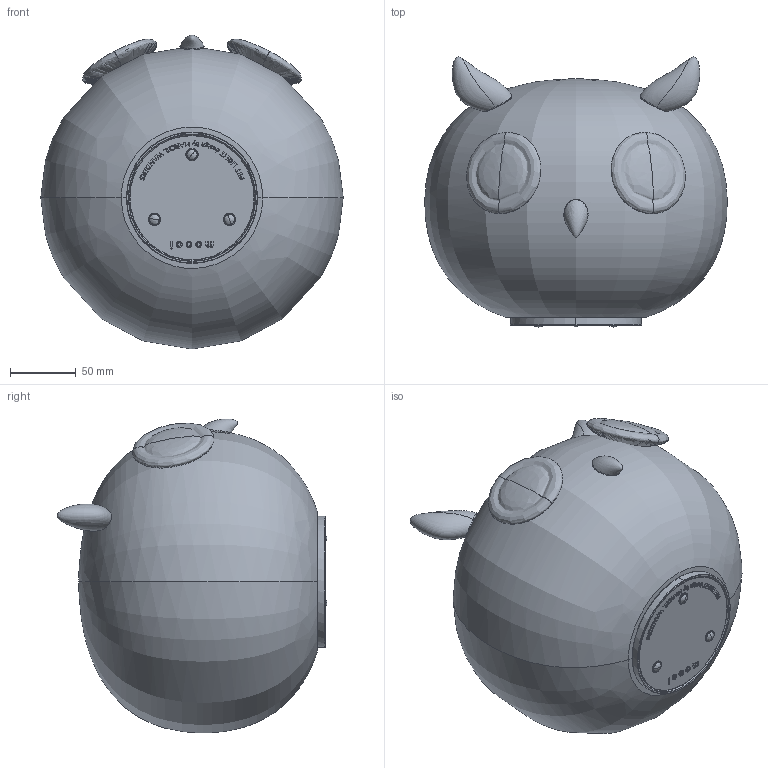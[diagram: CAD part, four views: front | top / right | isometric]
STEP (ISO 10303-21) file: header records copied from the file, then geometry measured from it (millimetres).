
FILE_DESCRIPTION (( 'STEP AP214' ), '1' );
FILE_NAME ('A000659_Creations_Default__04-05-2018.step', '2018-05-04T08:39:16', ( '' ), ( '' ), 'SwSTEP 2.0', 'SolidWorks 2017', '' );
FILE_SCHEMA (( 'AUTOMOTIVE_DESIGN' ));
Length unit declared in the file: millimetre
Products named in the file (1): A000659_Creations_Default__04-05-2018
Bounding box: 230.9 x 206.01 x 239.66 mm (x, y, z)
Surface area: 179941.6 mm2 (no closed solid volume)
Topology: 0 solids, 11 shells, 277 faces, 1184 edges, 859 vertices
Faces by surface type: plane 154, bspline 85, cylinder 18, cone 12, torus 8
Entity records: 25442 total; most frequent: CARTESIAN_POINT 13981, ORIENTED_EDGE 1681, DIRECTION 1295, EDGE_CURVE 1164, VERTEX_POINT 859, LINE 757, VECTOR 757, EDGE_LOOP 331
